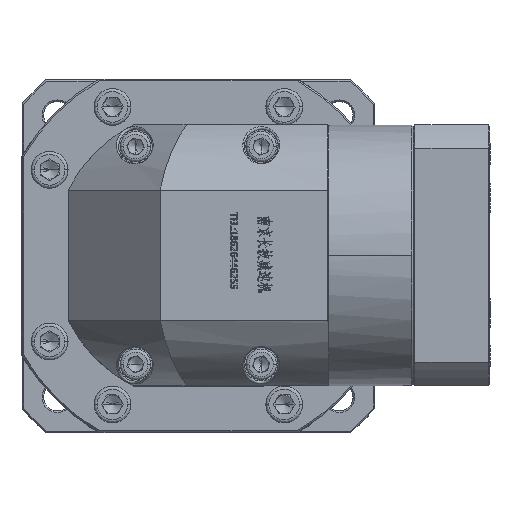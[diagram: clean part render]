
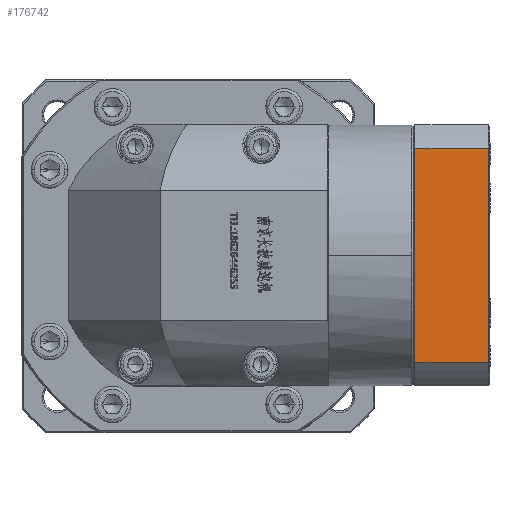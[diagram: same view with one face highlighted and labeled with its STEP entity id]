
A CAD part, top view. The second image highlights one B-rep face of the part: STEP entity #176742.
In plain terms, the highlighted planar face has unit normal (0, 0, 1).
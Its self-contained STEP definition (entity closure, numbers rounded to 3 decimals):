
#2081 = LINE ( 'NONE', #127454, #48769 ) ;
#3623 = PLANE ( 'NONE',  #62682 ) ;
#12957 = ORIENTED_EDGE ( 'NONE', *, *, #65678, .T. ) ;
#21966 = CARTESIAN_POINT ( 'NONE',  ( 100.673, 101.483, 18.254 ) ) ;
#23041 = LINE ( 'NONE', #138967, #94230 ) ;
#27764 = CARTESIAN_POINT ( 'NONE',  ( 125.173, 171.304, 18.254 ) ) ;
#37424 = LINE ( 'NONE', #27764, #70797 ) ;
#48769 = VECTOR ( 'NONE', #70415, 1000. ) ;
#59446 = EDGE_CURVE ( 'NONE', #82156, #125097, #23041, .T. ) ;
#62682 = AXIS2_PLACEMENT_3D ( 'NONE', #75649, #174779, #89993 ) ;
#65678 = EDGE_CURVE ( 'NONE', #148266, #103435, #97955, .T. ) ;
#68859 = DIRECTION ( 'NONE',  ( 0., -1., 0. ) ) ;
#70415 = DIRECTION ( 'NONE',  ( -1., 0., 0. ) ) ;
#70797 = VECTOR ( 'NONE', #84937, 1000. ) ;
#71139 = CARTESIAN_POINT ( 'NONE',  ( 124.673, 171.304, 18.254 ) ) ;
#75649 = CARTESIAN_POINT ( 'NONE',  ( 125.173, 101.483, 18.254 ) ) ;
#81245 = EDGE_CURVE ( 'NONE', #148266, #82156, #37424, .T. ) ;
#82156 = VERTEX_POINT ( 'NONE', #71139 ) ;
#84937 = DIRECTION ( 'NONE',  ( 1., 0., 0. ) ) ;
#89993 = DIRECTION ( 'NONE',  ( -1., 0., 0. ) ) ;
#93588 = VECTOR ( 'NONE', #122054, 1000. ) ;
#94230 = VECTOR ( 'NONE', #68859, 1000. ) ;
#97173 = ORIENTED_EDGE ( 'NONE', *, *, #81245, .F. ) ;
#97840 = CARTESIAN_POINT ( 'NONE',  ( 100.673, 171.304, 18.254 ) ) ;
#97955 = LINE ( 'NONE', #107829, #93588 ) ;
#102946 = FACE_OUTER_BOUND ( 'NONE', #144044, .T. ) ;
#103435 = VERTEX_POINT ( 'NONE', #21966 ) ;
#107829 = CARTESIAN_POINT ( 'NONE',  ( 100.673, 101.483, 18.254 ) ) ;
#122054 = DIRECTION ( 'NONE',  ( 0., -1., 0. ) ) ;
#125097 = VERTEX_POINT ( 'NONE', #136285 ) ;
#127454 = CARTESIAN_POINT ( 'NONE',  ( 125.173, 101.483, 18.254 ) ) ;
#136285 = CARTESIAN_POINT ( 'NONE',  ( 124.673, 101.483, 18.254 ) ) ;
#138967 = CARTESIAN_POINT ( 'NONE',  ( 124.673, 101.483, 18.254 ) ) ;
#144044 = EDGE_LOOP ( 'NONE', ( #174032, #97173, #12957, #175693 ) ) ;
#148266 = VERTEX_POINT ( 'NONE', #97840 ) ;
#174032 = ORIENTED_EDGE ( 'NONE', *, *, #59446, .F. ) ;
#174779 = DIRECTION ( 'NONE',  ( 0., 0., -1. ) ) ;
#175693 = ORIENTED_EDGE ( 'NONE', *, *, #178040, .F. ) ;
#176742 = ADVANCED_FACE ( 'NONE', ( #102946 ), #3623, .F. ) ;
#178040 = EDGE_CURVE ( 'NONE', #125097, #103435, #2081, .T. ) ;
